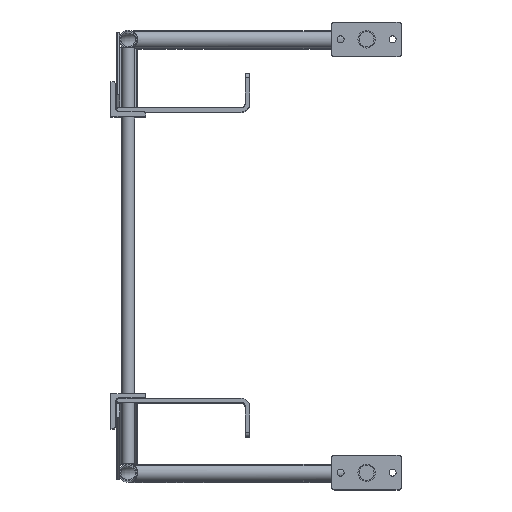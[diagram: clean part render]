
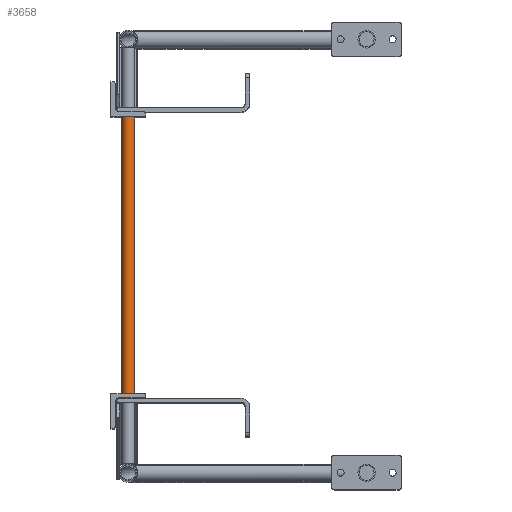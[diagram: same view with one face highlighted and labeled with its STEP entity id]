
A CAD part, top view. The second image highlights one B-rep face of the part: STEP entity #3658.
In plain terms, the highlighted cylindrical face has radius 9.525 mm (diameter 19.05 mm), a full revolution.
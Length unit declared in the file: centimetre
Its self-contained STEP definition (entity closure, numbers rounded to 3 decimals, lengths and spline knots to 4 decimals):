
#712=FACE_BOUND('',#1035,.T.);
#816=FACE_OUTER_BOUND('',#1034,.T.);
#1034=EDGE_LOOP('',(#2434));
#1035=EDGE_LOOP('',(#2435));
#1328=CIRCLE('',#3906,0.9525);
#1329=CIRCLE('',#3907,0.9525);
#1540=VERTEX_POINT('',#5675);
#1541=VERTEX_POINT('',#5677);
#1898=EDGE_CURVE('',#1540,#1540,#1328,.T.);
#1899=EDGE_CURVE('',#1541,#1541,#1329,.T.);
#2434=ORIENTED_EDGE('',*,*,#1898,.T.);
#2435=ORIENTED_EDGE('',*,*,#1899,.F.);
#3338=CYLINDRICAL_SURFACE('',#3905,0.9525);
#3658=ADVANCED_FACE('',(#816,#712),#3338,.T.);
#3905=AXIS2_PLACEMENT_3D('',#5674,#4379,#4380);
#3906=AXIS2_PLACEMENT_3D('',#5676,#4381,#4382);
#3907=AXIS2_PLACEMENT_3D('',#5678,#4383,#4384);
#4379=DIRECTION('center_axis',(0.,1.,0.));
#4380=DIRECTION('ref_axis',(1.,0.,0.));
#4381=DIRECTION('center_axis',(0.,-1.,0.));
#4382=DIRECTION('ref_axis',(1.,0.,0.));
#4383=DIRECTION('center_axis',(0.,-1.,0.));
#4384=DIRECTION('ref_axis',(1.,0.,0.));
#5674=CARTESIAN_POINT('Origin',(2.54,-41.4337,95.25));
#5675=CARTESIAN_POINT('',(1.5875,0.4763,95.25));
#5676=CARTESIAN_POINT('Origin',(2.54,0.4763,95.25));
#5677=CARTESIAN_POINT('',(1.5875,-41.4337,95.25));
#5678=CARTESIAN_POINT('Origin',(2.54,-41.4337,95.25));
